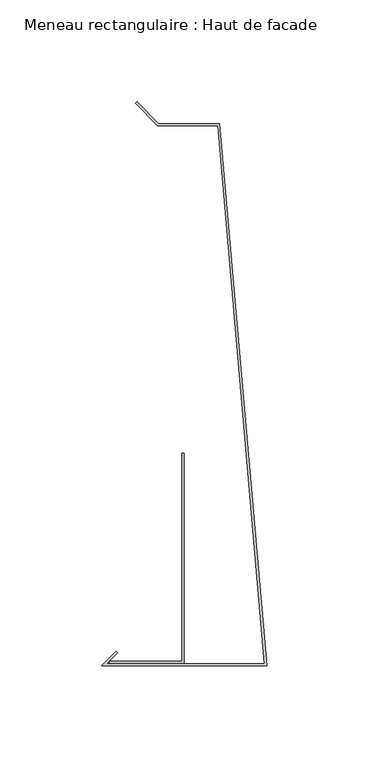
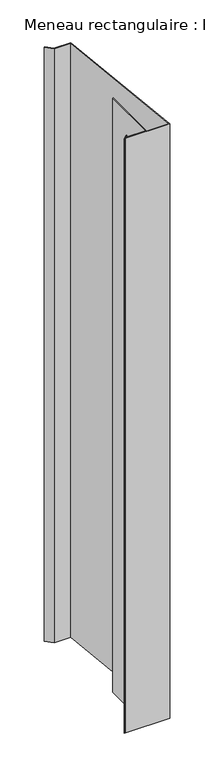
"""IFC4 building model written with IfcOpenShell, lengths in millimetres: member geometry, Meneau rectangulaire : Haut de facade."""

import ifcopenshell
import ifcopenshell.guid

model = None  # the IFC model being written
_history = None  # IfcOwnerHistory: only IFC2X3 demands one
_inside = {}  # id of a spatial element -> (the spatial element, [elements in it])
_under = {}  # id of a project, library or spatial element -> (it, [spatial elements below it])
_declared = {}  # id of a project -> (the project, [libraries it declares])
_typed = {}  # id of a type object -> (the type object, [elements of that type])
_made_of = {}  # id of a material, layer set ... -> (it, [elements and type objects made of it])


def new_model(schema):
    """Start an empty IFC model of exactly this schema.

    Asked for "IFC4X3", IfcOpenShell would pick the latest addendum, in which some entities
    have other attributes; the version numbers below select the first issue.
    IFC2X3 requires an IfcOwnerHistory on every rooted entity: one is made here for all.
    """
    global model, _history
    if schema == "IFC4X3":
        model = ifcopenshell.file(schema_version=(4, 3, 0, 0))
    else:
        model = ifcopenshell.file(schema=schema)
    _inside.clear()
    _under.clear()
    _declared.clear()
    _typed.clear()
    _made_of.clear()
    _history = None
    if model.schema == "IFC2X3":
        org = make("IfcOrganization", Name="unknown")
        user = make(
            "IfcPersonAndOrganization",
            ThePerson=make("IfcPerson", FamilyName="unknown"),
            TheOrganization=org,
        )
        app = make(
            "IfcApplication",
            ApplicationDeveloper=org,
            Version="unknown",
            ApplicationFullName="unknown",
            ApplicationIdentifier="unknown",
        )
        _history = make(
            "IfcOwnerHistory",
            OwningUser=user,
            OwningApplication=app,
            ChangeAction="ADDED",
            CreationDate=0,
        )
    return model


def make(cls, **values):
    """One entity of the class cls with the attributes given. An attribute that is None is left unset."""
    return model.create_entity(
        cls, **{name: value for name, value in values.items() if value is not None}
    )


def rooted(cls, **values):
    """An entity with a GlobalId (a new one), such as an element, a storey or a relation."""
    return make(cls, GlobalId=ifcopenshell.guid.new(), OwnerHistory=_history, **values)


def si_unit(unit_type, name, prefix=None):
    """IfcSIUnit, for example si_unit("LENGTHUNIT", "METRE", prefix="MILLI")."""
    return make("IfcSIUnit", UnitType=unit_type, Prefix=prefix, Name=name)


def assignment(units):
    """IfcUnitAssignment: the units of a project."""
    return None if units is None else make("IfcUnitAssignment", Units=units)


def point(xyz):
    """IfcCartesianPoint."""
    return None if xyz is None else make("IfcCartesianPoint", Coordinates=xyz)


def direction(xyz):
    """IfcDirection."""
    return None if xyz is None else make("IfcDirection", DirectionRatios=xyz)


def frame(location, z_axis=None, x_axis=None):
    """IfcAxis2Placement3D, a coordinate frame: its origin and axes. An axis left out is left unset."""
    return make(
        "IfcAxis2Placement3D",
        Location=point(location),
        Axis=direction(z_axis),
        RefDirection=direction(x_axis),
    )


def origin():
    """The frame at (0, 0, 0) with its axes left unset."""
    return frame((0.0, 0.0, 0.0))


def place(relative_to, where):
    """IfcLocalPlacement: puts the frame where relative to a parent placement (None: the world)."""
    return make(
        "IfcLocalPlacement", PlacementRelTo=relative_to, RelativePlacement=where
    )


def context(
    kind, dimensions, precision=None, world=None, true_north=None, identifier=None
):
    """IfcGeometricRepresentationContext, for example the 3D "Model" context."""
    return make(
        "IfcGeometricRepresentationContext",
        ContextIdentifier=identifier,
        ContextType=kind,
        CoordinateSpaceDimension=dimensions,
        Precision=precision,
        WorldCoordinateSystem=world,
        TrueNorth=true_north,
    )


def project(units=None, contexts=None):
    """IfcProject with its units and contexts."""
    return rooted(
        "IfcProject",
        Name="project",
        RepresentationContexts=contexts,
        UnitsInContext=assignment(units),
    )


def spatial(cls, under=None, at=None, **own):
    """A site, building, storey or space (cls), placed at a placement, below another one or the project."""
    s = rooted(cls, ObjectPlacement=at, **own)
    if under is not None:
        _under.setdefault(under.id(), (under, []))[1].append(s)
    return s


def polyline(points):
    """IfcPolyline through the points."""
    return make("IfcPolyline", Points=[point(p) for p in points])


def outline(outer, holes=None, kind="AREA"):
    """IfcArbitraryClosedProfileDef: a profile drawn as a closed curve; with holes, ...WithVoids."""
    if holes is None:
        return make("IfcArbitraryClosedProfileDef", ProfileType=kind, OuterCurve=outer)
    return make(
        "IfcArbitraryProfileDefWithVoids",
        ProfileType=kind,
        OuterCurve=outer,
        InnerCurves=holes,
    )


def extrude(swept, where, along, depth):
    """IfcExtrudedAreaSolid: the profile swept, set in the frame where, extruded along a direction by depth."""
    return make(
        "IfcExtrudedAreaSolid",
        SweptArea=swept,
        Position=where,
        ExtrudedDirection=direction(along),
        Depth=depth,
    )


def shape(context_of_items, identifier, shape_type, items):
    """IfcShapeRepresentation: the items that make up one representation, for example the "Body"."""
    return make(
        "IfcShapeRepresentation",
        ContextOfItems=context_of_items,
        RepresentationIdentifier=identifier,
        RepresentationType=shape_type,
        Items=items,
    )


def source(mapping_origin, context_of_items, identifier, shape_type, items):
    """IfcRepresentationMap: a shape defined once, which mapped items show again and again."""
    return make(
        "IfcRepresentationMap",
        MappingOrigin=mapping_origin,
        MappedRepresentation=shape(context_of_items, identifier, shape_type, items),
    )


def transform(
    local_origin,
    x_axis=None,
    y_axis=None,
    z_axis=None,
    scale=None,
    scale2=None,
    scale3=None,
    uniform=True,
):
    """IfcCartesianTransformationOperator3D, or its non-uniform kind. x_axis, y_axis, z_axis: its Axis1, 2, 3."""
    if uniform:
        return make(
            "IfcCartesianTransformationOperator3D",
            Axis1=direction(x_axis),
            Axis2=direction(y_axis),
            LocalOrigin=point(local_origin),
            Scale=scale,
            Axis3=direction(z_axis),
        )
    return make(
        "IfcCartesianTransformationOperator3DnonUniform",
        Axis1=direction(x_axis),
        Axis2=direction(y_axis),
        LocalOrigin=point(local_origin),
        Scale=scale,
        Axis3=direction(z_axis),
        Scale2=scale2,
        Scale3=scale3,
    )


def mapped(mapping_source, mapping_target):
    """IfcMappedItem: shows the shape of a source again, moved by a transform."""
    return make(
        "IfcMappedItem", MappingSource=mapping_source, MappingTarget=mapping_target
    )


def made_of(thing, what):
    """Note that an element or type object is made of a material, layer set ...; save() writes the relation."""
    if what is not None:
        _made_of.setdefault(what.id(), (what, []))[1].append(thing)
    return thing


def element(
    cls,
    number,
    at=None,
    inside=None,
    cuts=None,
    type_object=None,
    material=None,
    context=None,
    identifier="Body",
    shape_type=None,
    held_by="IfcProductDefinitionShape",
    body=None,
    shapes=None,
    **own,
):
    """One element of the class cls, such as IfcWall. Its Tag is "e" and its number.

    at: its placement. inside: the storey or other place that contains it. cuts: it is an
    opening in that element (IfcRelVoidsElement). A single representation is given by context,
    identifier, shape_type and body (its items); several are given by shapes. held_by: the class
    of the entity that holds the representations. save() writes the other relations.
    """
    e = rooted(cls, Tag="e%d" % number, ObjectPlacement=at, **own)
    if body is not None:
        shapes = [shape(context, identifier, shape_type, body)]
    if shapes is not None:
        e.Representation = make(held_by, Representations=shapes)
    if inside is not None:
        _inside.setdefault(inside.id(), (inside, []))[1].append(e)
    if cuts is not None:
        rooted(
            "IfcRelVoidsElement", RelatingBuildingElement=cuts, RelatedOpeningElement=e
        )
    if type_object is not None:
        _typed.setdefault(type_object.id(), (type_object, []))[1].append(e)
    return made_of(e, material)


def aggregate(whole, parts):
    """IfcRelAggregates: a whole, such as a stair, and the parts it consists of."""
    return rooted("IfcRelAggregates", RelatingObject=whole, RelatedObjects=parts)


def save(model, path):
    """Write the relations noted so far, then the file.

    IfcRelAggregates (storeys below a building ...), IfcRelContainedInSpatialStructure (elements
    in a storey), IfcRelDefinesByType, IfcRelAssociatesMaterial and IfcRelDeclares: one each for
    every whole, place, type object, material and project.
    """
    for whole, parts in _under.values():
        aggregate(whole, parts)
    for where, things in _inside.values():
        rooted(
            "IfcRelContainedInSpatialStructure",
            RelatedElements=things,
            RelatingStructure=where,
        )
    for kind, things in _typed.values():
        rooted("IfcRelDefinesByType", RelatedObjects=things, RelatingType=kind)
    for what, things in _made_of.values():
        rooted("IfcRelAssociatesMaterial", RelatedObjects=things, RelatingMaterial=what)
    for by, libraries in _declared.values():
        rooted("IfcRelDeclares", RelatingContext=by, RelatedDefinitions=libraries)
    model.write(path)


def meneau_rectangulaire_haut_de_facade_4c8db4a6(model_context):
    return source(origin(), model_context, "Body", "SweptSolid", [
        extrude(outline(polyline([(-24.0647895, 160.703755), (-53.5626719, 160.703755), (-64.4621669, 171.6032499), (-63.7550601, 172.3103567), (-53.1484584, 161.703755), (-23.1484584, 161.703755), (0.0, -104.2), (-81.0, -104.2), (-73.9289322, -97.1289322), (-73.2218254, -97.836039), (-78.5857864, -103.2), (-1.0913085, -103.2), (-24.0647895, 160.703755)])), frame((0.0, 0.0, -1120.0), z_axis=(0.0, 0.0, 1.0), x_axis=(1.0, 0.0, 0.0)), (0.0, 0.0, 1.0), 1120.0),
        extrude(outline(polyline([(-40.5477541, -102.9846816), (-77.0752814, -102.9846816), (-77.0752814, -101.9846816), (-41.5477541, -101.9846816), (-41.5477541, -0.0384227), (-40.5477541, -0.0384227), (-40.5477541, -102.9846816)])), frame((0.0, 0.0, -1120.0), z_axis=(0.0, 0.0, 1.0), x_axis=(1.0, 0.0, 0.0)), (0.0, 0.0, 1.0), 1120.0),
    ])


if __name__ == "__main__":
    model = new_model("IFC4")
    model_context = context("Model", 3, world=origin())
    ifc_project = project(units=[si_unit("LENGTHUNIT", "METRE", prefix="MILLI")], contexts=[model_context])
    site = spatial("IfcSite", under=ifc_project)
    building = spatial("IfcBuilding", under=site)
    placement = place(None, origin())
    meneau_rectangulaire_haut_de_facade_shape = meneau_rectangulaire_haut_de_facade_4c8db4a6(model_context)
    element("IfcMember", 1, ObjectType="Meneau rectangulaire : Haut de facade", at=placement, inside=building, context=model_context, shape_type="MappedRepresentation", body=[
        mapped(meneau_rectangulaire_haut_de_facade_shape, transform((0.0, 0.0, 0.0), x_axis=(1.0, 0.0, 0.0), y_axis=(0.0, 1.0, 0.0), z_axis=(0.0, 0.0, 1.0))),
    ])
    save(model, "model.ifc")
